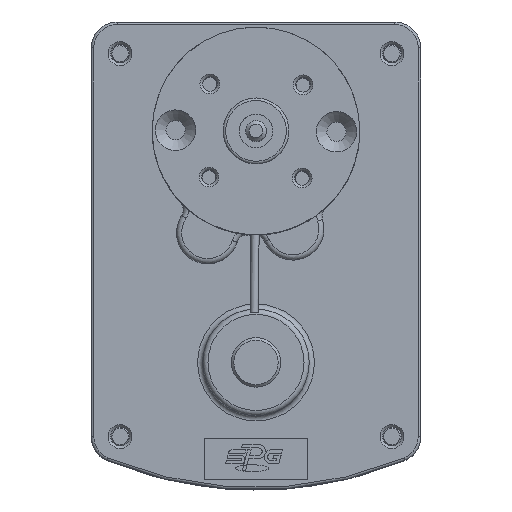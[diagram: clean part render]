
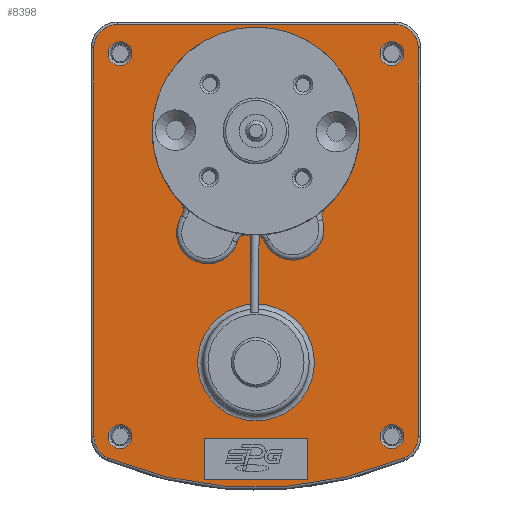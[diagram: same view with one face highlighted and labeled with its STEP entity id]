
A CAD part, top view. The second image highlights one B-rep face of the part: STEP entity #8398.
In plain terms, the highlighted planar face has unit normal (0, 0, 1).
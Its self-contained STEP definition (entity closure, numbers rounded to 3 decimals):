
#252=LINE('',#12748,#700);
#254=LINE('',#12760,#702);
#256=LINE('',#12772,#704);
#401=LINE('',#13349,#849);
#403=LINE('',#13353,#851);
#405=LINE('',#13357,#853);
#407=LINE('',#13360,#855);
#700=VECTOR('',#9963,74.87);
#702=VECTOR('',#9977,53.5);
#704=VECTOR('',#9991,74.87);
#849=VECTOR('',#10472,8.);
#851=VECTOR('',#10476,20.);
#853=VECTOR('',#10480,8.);
#855=VECTOR('',#10484,20.);
#1385=PLANE('',#9426);
#1718=FACE_BOUND('',#2972,.T.);
#1719=FACE_BOUND('',#2973,.T.);
#1720=FACE_BOUND('',#2974,.T.);
#1721=FACE_BOUND('',#2975,.T.);
#1722=FACE_BOUND('',#2976,.T.);
#1723=FACE_BOUND('',#2977,.T.);
#1724=FACE_BOUND('',#2978,.T.);
#2275=FACE_OUTER_BOUND('',#2971,.T.);
#2971=EDGE_LOOP('',(#7573,#7574,#7575,#7576,#7577,#7578,#7579,#7580));
#2972=EDGE_LOOP('',(#7581));
#2973=EDGE_LOOP('',(#7582,#7583,#7584,#7585));
#2974=EDGE_LOOP('',(#7586));
#2975=EDGE_LOOP('',(#7587));
#2976=EDGE_LOOP('',(#7588));
#2977=EDGE_LOOP('',(#7589,#7590,#7591,#7592,#7593,#7594,#7595,#7596));
#2978=EDGE_LOOP('',(#7597));
#3215=CIRCLE('',#8656,4.5);
#3221=CIRCLE('',#8664,4.5);
#3225=CIRCLE('',#8670,4.5);
#3229=CIRCLE('',#8676,4.5);
#3231=CIRCLE('',#8679,74.29);
#3310=CIRCLE('',#8833,2.3);
#3311=CIRCLE('',#8835,2.3);
#3312=CIRCLE('',#8837,2.3);
#3313=CIRCLE('',#8839,2.3);
#3563=CIRCLE('',#9368,6.);
#3565=CIRCLE('',#9371,2.);
#3567=CIRCLE('',#9374,2.);
#3569=CIRCLE('',#9377,20.);
#3571=CIRCLE('',#9380,2.);
#3573=CIRCLE('',#9383,6.);
#3575=CIRCLE('',#9386,2.);
#3577=CIRCLE('',#9389,20.);
#3590=CIRCLE('',#9427,11.25);
#3771=VERTEX_POINT('',#12736);
#3772=VERTEX_POINT('',#12738);
#3774=VERTEX_POINT('',#12744);
#3776=VERTEX_POINT('',#12750);
#3778=VERTEX_POINT('',#12756);
#3780=VERTEX_POINT('',#12762);
#3782=VERTEX_POINT('',#12768);
#3784=VERTEX_POINT('',#12774);
#3944=VERTEX_POINT('',#13334);
#3945=VERTEX_POINT('',#13337);
#3946=VERTEX_POINT('',#13340);
#3947=VERTEX_POINT('',#13343);
#3948=VERTEX_POINT('',#13346);
#3949=VERTEX_POINT('',#13348);
#3950=VERTEX_POINT('',#13352);
#3951=VERTEX_POINT('',#13356);
#4348=VERTEX_POINT('',#15460);
#4349=VERTEX_POINT('',#15462);
#4351=VERTEX_POINT('',#15468);
#4353=VERTEX_POINT('',#15474);
#4355=VERTEX_POINT('',#15480);
#4357=VERTEX_POINT('',#15486);
#4359=VERTEX_POINT('',#15492);
#4361=VERTEX_POINT('',#15498);
#4370=VERTEX_POINT('',#15560);
#4580=EDGE_CURVE('',#3771,#3772,#3215,.T.);
#4585=EDGE_CURVE('',#3772,#3774,#252,.T.);
#4588=EDGE_CURVE('',#3774,#3776,#3221,.T.);
#4591=EDGE_CURVE('',#3776,#3778,#254,.T.);
#4594=EDGE_CURVE('',#3778,#3780,#3225,.T.);
#4597=EDGE_CURVE('',#3780,#3782,#256,.T.);
#4600=EDGE_CURVE('',#3782,#3784,#3229,.T.);
#4602=EDGE_CURVE('',#3784,#3771,#3231,.T.);
#4826=EDGE_CURVE('',#3944,#3944,#3310,.T.);
#4827=EDGE_CURVE('',#3945,#3945,#3311,.T.);
#4828=EDGE_CURVE('',#3946,#3946,#3312,.T.);
#4829=EDGE_CURVE('',#3947,#3947,#3313,.T.);
#4831=EDGE_CURVE('',#3949,#3948,#401,.T.);
#4833=EDGE_CURVE('',#3950,#3949,#403,.T.);
#4835=EDGE_CURVE('',#3951,#3950,#405,.T.);
#4837=EDGE_CURVE('',#3948,#3951,#407,.T.);
#5429=EDGE_CURVE('',#4349,#4348,#3563,.T.);
#5432=EDGE_CURVE('',#4351,#4349,#3565,.T.);
#5436=EDGE_CURVE('',#4348,#4353,#3567,.T.);
#5438=EDGE_CURVE('',#4355,#4351,#3569,.T.);
#5441=EDGE_CURVE('',#4357,#4355,#3571,.T.);
#5444=EDGE_CURVE('',#4359,#4357,#3573,.T.);
#5447=EDGE_CURVE('',#4361,#4359,#3575,.T.);
#5450=EDGE_CURVE('',#4353,#4361,#3577,.T.);
#5474=EDGE_CURVE('',#4370,#4370,#3590,.T.);
#7573=ORIENTED_EDGE('',*,*,#4580,.F.);
#7574=ORIENTED_EDGE('',*,*,#4602,.F.);
#7575=ORIENTED_EDGE('',*,*,#4600,.F.);
#7576=ORIENTED_EDGE('',*,*,#4597,.F.);
#7577=ORIENTED_EDGE('',*,*,#4594,.F.);
#7578=ORIENTED_EDGE('',*,*,#4591,.F.);
#7579=ORIENTED_EDGE('',*,*,#4588,.F.);
#7580=ORIENTED_EDGE('',*,*,#4585,.F.);
#7581=ORIENTED_EDGE('',*,*,#4826,.F.);
#7582=ORIENTED_EDGE('',*,*,#4831,.T.);
#7583=ORIENTED_EDGE('',*,*,#4837,.T.);
#7584=ORIENTED_EDGE('',*,*,#4835,.T.);
#7585=ORIENTED_EDGE('',*,*,#4833,.T.);
#7586=ORIENTED_EDGE('',*,*,#4829,.F.);
#7587=ORIENTED_EDGE('',*,*,#4828,.F.);
#7588=ORIENTED_EDGE('',*,*,#4827,.F.);
#7589=ORIENTED_EDGE('',*,*,#5441,.T.);
#7590=ORIENTED_EDGE('',*,*,#5438,.T.);
#7591=ORIENTED_EDGE('',*,*,#5432,.T.);
#7592=ORIENTED_EDGE('',*,*,#5429,.T.);
#7593=ORIENTED_EDGE('',*,*,#5436,.T.);
#7594=ORIENTED_EDGE('',*,*,#5450,.T.);
#7595=ORIENTED_EDGE('',*,*,#5447,.T.);
#7596=ORIENTED_EDGE('',*,*,#5444,.T.);
#7597=ORIENTED_EDGE('',*,*,#5474,.F.);
#8398=ADVANCED_FACE('',(#2275,#1718,#1719,#1720,#1721,#1722,#1723,#1724),
#1385,.T.);
#8656=AXIS2_PLACEMENT_3D('',#12739,#9952,#9953);
#8664=AXIS2_PLACEMENT_3D('',#12754,#9970,#9971);
#8670=AXIS2_PLACEMENT_3D('',#12766,#9984,#9985);
#8676=AXIS2_PLACEMENT_3D('',#12778,#9998,#9999);
#8679=AXIS2_PLACEMENT_3D('',#12781,#10004,#10005);
#8833=AXIS2_PLACEMENT_3D('',#13335,#10455,#10456);
#8835=AXIS2_PLACEMENT_3D('',#13338,#10459,#10460);
#8837=AXIS2_PLACEMENT_3D('',#13341,#10463,#10464);
#8839=AXIS2_PLACEMENT_3D('',#13344,#10467,#10468);
#9368=AXIS2_PLACEMENT_3D('',#15463,#11743,#11744);
#9371=AXIS2_PLACEMENT_3D('',#15469,#11750,#11751);
#9374=AXIS2_PLACEMENT_3D('',#15476,#11758,#11759);
#9377=AXIS2_PLACEMENT_3D('',#15481,#11764,#11765);
#9380=AXIS2_PLACEMENT_3D('',#15487,#11771,#11772);
#9383=AXIS2_PLACEMENT_3D('',#15493,#11778,#11779);
#9386=AXIS2_PLACEMENT_3D('',#15499,#11785,#11786);
#9389=AXIS2_PLACEMENT_3D('',#15503,#11792,#11793);
#9426=AXIS2_PLACEMENT_3D('',#15559,#11877,#11878);
#9427=AXIS2_PLACEMENT_3D('',#15561,#11879,#11880);
#9952=DIRECTION('center_axis',(0.,0.,-1.));
#9953=DIRECTION('ref_axis',(-0.832,-0.555,0.));
#9963=DIRECTION('',(0.,1.,0.));
#9970=DIRECTION('center_axis',(0.,0.,-1.));
#9971=DIRECTION('ref_axis',(-0.707,0.707,0.));
#9977=DIRECTION('',(1.,0.,0.));
#9984=DIRECTION('center_axis',(0.,0.,-1.));
#9985=DIRECTION('ref_axis',(0.707,0.707,0.));
#9991=DIRECTION('',(0.,-1.,0.));
#9998=DIRECTION('center_axis',(0.,0.,-1.));
#9999=DIRECTION('ref_axis',(0.832,-0.555,0.));
#10004=DIRECTION('center_axis',(0.,0.,-1.));
#10005=DIRECTION('ref_axis',(0.,-1.,0.));
#10455=DIRECTION('center_axis',(0.,0.,1.));
#10456=DIRECTION('ref_axis',(1.,0.,0.));
#10459=DIRECTION('center_axis',(0.,0.,1.));
#10460=DIRECTION('ref_axis',(1.,0.,0.));
#10463=DIRECTION('center_axis',(0.,0.,1.));
#10464=DIRECTION('ref_axis',(1.,0.,0.));
#10467=DIRECTION('center_axis',(0.,0.,1.));
#10468=DIRECTION('ref_axis',(1.,0.,0.));
#10472=DIRECTION('',(0.,1.,0.));
#10476=DIRECTION('',(-1.,0.,0.));
#10480=DIRECTION('',(0.,-1.,0.));
#10484=DIRECTION('',(1.,0.,0.));
#11743=DIRECTION('center_axis',(0.,0.,-1.));
#11744=DIRECTION('ref_axis',(0.98,0.197,0.));
#11750=DIRECTION('center_axis',(0.,0.,1.));
#11751=DIRECTION('ref_axis',(-0.965,0.261,0.));
#11758=DIRECTION('center_axis',(0.,0.,1.));
#11759=DIRECTION('ref_axis',(0.551,0.835,0.));
#11764=DIRECTION('center_axis',(0.,0.,-1.));
#11765=DIRECTION('ref_axis',(-0.615,0.789,0.));
#11771=DIRECTION('center_axis',(0.,0.,1.));
#11772=DIRECTION('ref_axis',(0.996,0.086,0.));
#11778=DIRECTION('center_axis',(0.,0.,-1.));
#11779=DIRECTION('ref_axis',(0.656,-0.755,0.));
#11785=DIRECTION('center_axis',(0.,0.,1.));
#11786=DIRECTION('ref_axis',(-0.558,0.83,0.));
#11792=DIRECTION('center_axis',(0.,0.,-1.));
#11793=DIRECTION('ref_axis',(0.167,0.986,0.));
#11877=DIRECTION('center_axis',(0.,0.,1.));
#11878=DIRECTION('ref_axis',(1.,0.,0.));
#11879=DIRECTION('center_axis',(0.,0.,1.));
#11880=DIRECTION('ref_axis',(-1.,0.,0.));
#12736=CARTESIAN_POINT('',(-28.475,-69.226,0.));
#12738=CARTESIAN_POINT('',(-31.25,-65.07,0.));
#12739=CARTESIAN_POINT('Origin',(-26.75,-65.07,0.));
#12744=CARTESIAN_POINT('',(-31.25,9.8,0.));
#12748=CARTESIAN_POINT('',(-31.25,-65.07,0.));
#12750=CARTESIAN_POINT('',(-26.75,14.3,0.));
#12754=CARTESIAN_POINT('Origin',(-26.75,9.8,0.));
#12756=CARTESIAN_POINT('',(26.75,14.3,0.));
#12760=CARTESIAN_POINT('',(-26.75,14.3,0.));
#12762=CARTESIAN_POINT('',(31.25,9.8,0.));
#12766=CARTESIAN_POINT('Origin',(26.75,9.8,0.));
#12768=CARTESIAN_POINT('',(31.25,-65.07,0.));
#12772=CARTESIAN_POINT('',(31.25,9.8,0.));
#12774=CARTESIAN_POINT('',(28.475,-69.226,0.));
#12778=CARTESIAN_POINT('Origin',(26.75,-65.07,0.));
#12781=CARTESIAN_POINT('Origin',(0.,-0.61,0.));
#13334=CARTESIAN_POINT('',(23.89,-65.07,0.));
#13335=CARTESIAN_POINT('Origin',(26.19,-65.07,0.));
#13337=CARTESIAN_POINT('',(23.89,8.71,0.));
#13338=CARTESIAN_POINT('Origin',(26.19,8.71,0.));
#13340=CARTESIAN_POINT('',(-28.49,8.71,0.));
#13341=CARTESIAN_POINT('Origin',(-26.19,8.71,0.));
#13343=CARTESIAN_POINT('',(-28.49,-65.07,0.));
#13344=CARTESIAN_POINT('Origin',(-26.19,-65.07,0.));
#13346=CARTESIAN_POINT('',(-10.,-65.4,0.));
#13348=CARTESIAN_POINT('',(-10.,-73.4,0.));
#13349=CARTESIAN_POINT('',(-10.,-73.4,0.));
#13352=CARTESIAN_POINT('',(10.,-73.4,0.));
#13353=CARTESIAN_POINT('',(10.,-73.4,0.));
#13356=CARTESIAN_POINT('',(10.,-65.4,0.));
#13357=CARTESIAN_POINT('',(10.,-65.4,0.));
#13360=CARTESIAN_POINT('',(-10.,-65.4,0.));
#15460=CARTESIAN_POINT('',(1.607,-27.494,0.));
#15462=CARTESIAN_POINT('',(12.816,-23.256,0.));
#15463=CARTESIAN_POINT('Origin',(7.1,-25.08,0.));
#15468=CARTESIAN_POINT('',(13.383,-21.162,0.));
#15469=CARTESIAN_POINT('Origin',(14.722,-22.649,0.));
#15474=CARTESIAN_POINT('',(-0.204,-26.299,0.));
#15476=CARTESIAN_POINT('Origin',(-0.224,-28.299,0.));
#15480=CARTESIAN_POINT('',(-14.551,-20.021,0.));
#15481=CARTESIAN_POINT('Origin',(0.,-6.3,
0.));
#15486=CARTESIAN_POINT('',(-14.337,-22.495,0.));
#15487=CARTESIAN_POINT('Origin',(-16.007,-21.393,0.));
#15492=CARTESIAN_POINT('',(-3.614,-27.625,0.));
#15493=CARTESIAN_POINT('Origin',(-9.33,-25.8,0.));
#15498=CARTESIAN_POINT('',(-1.554,-26.24,0.));
#15499=CARTESIAN_POINT('Origin',(-1.709,-28.234,0.));
#15503=CARTESIAN_POINT('Origin',(0.,-6.3,
0.));
#15559=CARTESIAN_POINT('Origin',(0.,-27.996,0.));
#15560=CARTESIAN_POINT('',(11.25,-50.8,0.));
#15561=CARTESIAN_POINT('Origin',(0.,-50.8,0.));
